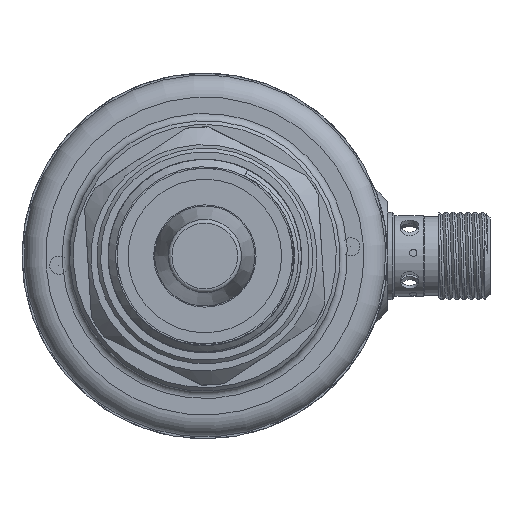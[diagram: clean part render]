
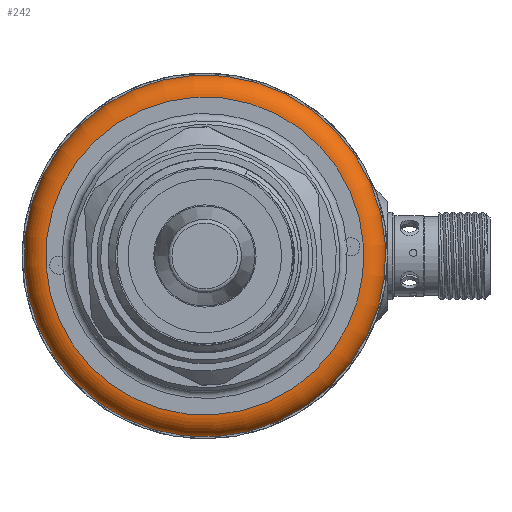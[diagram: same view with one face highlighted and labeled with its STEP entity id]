
A CAD part, front view. The second image highlights one B-rep face of the part: STEP entity #242.
In plain terms, the highlighted toroidal (fillet/blend) face has major radius 21.75 mm and minor radius 3 mm.
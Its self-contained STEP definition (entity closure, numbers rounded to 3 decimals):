
#242 = ADVANCED_FACE ( 'NONE', ( #7528, #10778 ), #3024, .T. ) ;
#769 = ORIENTED_EDGE ( 'NONE', *, *, #3374, .F. ) ;
#1951 = CARTESIAN_POINT ( 'NONE',  ( 41., 0., -22.025 ) ) ;
#2215 = CARTESIAN_POINT ( 'NONE',  ( 44., 0., -0.275 ) ) ;
#3012 = DIRECTION ( 'NONE',  ( 0., 0., -1. ) ) ;
#3024 = TOROIDAL_SURFACE ( 'NONE', #11406, 21.75, 3. ) ;
#3374 = EDGE_CURVE ( 'NONE', #14512, #14512, #4697, .T. ) ;
#3785 = DIRECTION ( 'NONE',  ( 1., 0., 0. ) ) ;
#4006 = CIRCLE ( 'NONE', #12419, 21.75 ) ;
#4697 = CIRCLE ( 'NONE', #5389, 24.75 ) ;
#5389 = AXIS2_PLACEMENT_3D ( 'NONE', #2215, #6777, #11681 ) ;
#6735 = EDGE_CURVE ( 'NONE', #12254, #12254, #4006, .T. ) ;
#6777 = DIRECTION ( 'NONE',  ( 1., 0., 0. ) ) ;
#7528 = FACE_OUTER_BOUND ( 'NONE', #10205, .T. ) ;
#8328 = ORIENTED_EDGE ( 'NONE', *, *, #6735, .F. ) ;
#8375 = DIRECTION ( 'NONE',  ( 0., 0., -1. ) ) ;
#10061 = EDGE_LOOP ( 'NONE', ( #8328 ) ) ;
#10205 = EDGE_LOOP ( 'NONE', ( #769 ) ) ;
#10754 = CARTESIAN_POINT ( 'NONE',  ( 44., 0., -25.025 ) ) ;
#10778 = FACE_OUTER_BOUND ( 'NONE', #10061, .T. ) ;
#10840 = DIRECTION ( 'NONE',  ( -1., 0., 0. ) ) ;
#11406 = AXIS2_PLACEMENT_3D ( 'NONE', #14092, #3785, #8375 ) ;
#11681 = DIRECTION ( 'NONE',  ( 0., 0., -1. ) ) ;
#11896 = CARTESIAN_POINT ( 'NONE',  ( 41., 0., -0.275 ) ) ;
#12254 = VERTEX_POINT ( 'NONE', #1951 ) ;
#12419 = AXIS2_PLACEMENT_3D ( 'NONE', #11896, #10840, #3012 ) ;
#14092 = CARTESIAN_POINT ( 'NONE',  ( 44., 0., -0.275 ) ) ;
#14512 = VERTEX_POINT ( 'NONE', #10754 ) ;
